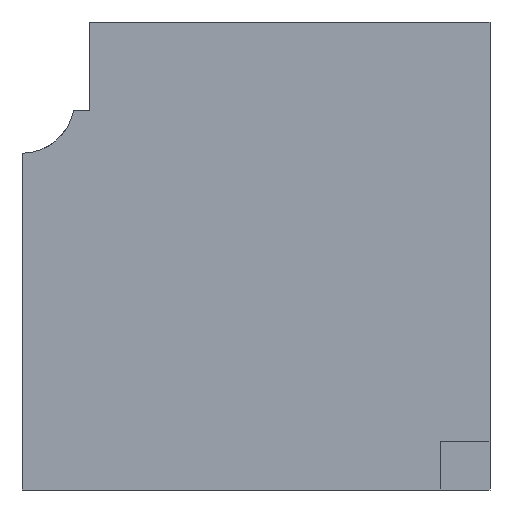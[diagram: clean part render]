
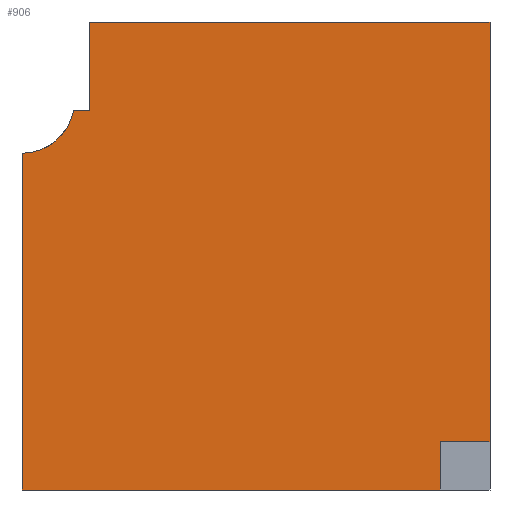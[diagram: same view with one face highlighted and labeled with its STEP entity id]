
A CAD part, front view. The second image highlights one B-rep face of the part: STEP entity #906.
In plain terms, the highlighted planar face has unit normal (0, -1, 0).
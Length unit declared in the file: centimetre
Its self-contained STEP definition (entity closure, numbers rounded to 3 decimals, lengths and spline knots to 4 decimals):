
#17 = DIRECTION ( 'NONE',  ( -1., 0., 0. ) ) ;
#20 = LINE ( 'NONE', #559, #43 ) ;
#43 = VECTOR ( 'NONE', #797, 100. ) ;
#47 = DIRECTION ( 'NONE',  ( 1., 0., 0. ) ) ;
#54 = ORIENTED_EDGE ( 'NONE', *, *, #776, .F. ) ;
#63 = AXIS2_PLACEMENT_3D ( 'NONE', #966, #281, #801 ) ;
#82 = VECTOR ( 'NONE', #47, 100. ) ;
#94 = VERTEX_POINT ( 'NONE', #123 ) ;
#96 = FACE_OUTER_BOUND ( 'NONE', #480, .T. ) ;
#123 = CARTESIAN_POINT ( 'NONE',  ( 145.1596, 0., 811.8072 ) ) ;
#126 = DIRECTION ( 'NONE',  ( 0., 0., 1. ) ) ;
#133 = CARTESIAN_POINT ( 'NONE',  ( 0., 0., 811.8072 ) ) ;
#153 = EDGE_CURVE ( 'NONE', #509, #575, #817, .T. ) ;
#163 = EDGE_CURVE ( 'NONE', #94, #742, #297, .T. ) ;
#166 = CARTESIAN_POINT ( 'NONE',  ( 1000., 0., 103.512 ) ) ;
#232 = LINE ( 'NONE', #133, #82 ) ;
#252 = EDGE_CURVE ( 'NONE', #760, #508, #270, .T. ) ;
#264 = VERTEX_POINT ( 'NONE', #278 ) ;
#270 = LINE ( 'NONE', #1053, #1006 ) ;
#278 = CARTESIAN_POINT ( 'NONE',  ( 893.4928, 0., 0. ) ) ;
#281 = DIRECTION ( 'NONE',  ( 0., 1., 0. ) ) ;
#291 = VECTOR ( 'NONE', #126, 100. ) ;
#297 = LINE ( 'NONE', #892, #291 ) ;
#324 = VECTOR ( 'NONE', #836, 100. ) ;
#384 = CARTESIAN_POINT ( 'NONE',  ( 110.3275, 0., 811.8072 ) ) ;
#400 = ORIENTED_EDGE ( 'NONE', *, *, #994, .F. ) ;
#407 = EDGE_CURVE ( 'NONE', #508, #264, #813, .T. ) ;
#435 = VECTOR ( 'NONE', #1114, 100. ) ;
#436 = CARTESIAN_POINT ( 'NONE',  ( 0., 0., 719.5913 ) ) ;
#449 = ORIENTED_EDGE ( 'NONE', *, *, #153, .T. ) ;
#480 = EDGE_LOOP ( 'NONE', ( #961, #868, #400, #54, #449, #487, #1043, #782, #519 ) ) ;
#487 = ORIENTED_EDGE ( 'NONE', *, *, #1102, .T. ) ;
#495 = CARTESIAN_POINT ( 'NONE',  ( 0., 0., 0. ) ) ;
#508 = VERTEX_POINT ( 'NONE', #847 ) ;
#509 = VERTEX_POINT ( 'NONE', #436 ) ;
#519 = ORIENTED_EDGE ( 'NONE', *, *, #819, .F. ) ;
#523 = CARTESIAN_POINT ( 'NONE',  ( 1000., 0., 1000. ) ) ;
#559 = CARTESIAN_POINT ( 'NONE',  ( 0., 0., 1000. ) ) ;
#575 = VERTEX_POINT ( 'NONE', #779 ) ;
#629 = DIRECTION ( 'NONE',  ( 0., 0., -1. ) ) ;
#680 = CARTESIAN_POINT ( 'NONE',  ( 145.1596, 0., 1000. ) ) ;
#714 = CARTESIAN_POINT ( 'NONE',  ( 1000., 0., 1000. ) ) ;
#742 = VERTEX_POINT ( 'NONE', #680 ) ;
#760 = VERTEX_POINT ( 'NONE', #166 ) ;
#775 = LINE ( 'NONE', #523, #435 ) ;
#776 = EDGE_CURVE ( 'NONE', #509, #848, #880, .T. ) ;
#779 = CARTESIAN_POINT ( 'NONE',  ( 0., 0., 0. ) ) ;
#782 = ORIENTED_EDGE ( 'NONE', *, *, #252, .F. ) ;
#797 = DIRECTION ( 'NONE',  ( 1., 0., 0. ) ) ;
#801 = DIRECTION ( 'NONE',  ( 0., 0., 1. ) ) ;
#813 = LINE ( 'NONE', #1063, #956 ) ;
#817 = LINE ( 'NONE', #1067, #823 ) ;
#819 = EDGE_CURVE ( 'NONE', #855, #760, #775, .T. ) ;
#823 = VECTOR ( 'NONE', #907, 100. ) ;
#836 = DIRECTION ( 'NONE',  ( 1., 0., 0. ) ) ;
#846 = CARTESIAN_POINT ( 'NONE',  ( 0., 0., 831.6975 ) ) ;
#847 = CARTESIAN_POINT ( 'NONE',  ( 893.4928, 0., 103.512 ) ) ;
#848 = VERTEX_POINT ( 'NONE', #384 ) ;
#855 = VERTEX_POINT ( 'NONE', #714 ) ;
#868 = ORIENTED_EDGE ( 'NONE', *, *, #163, .F. ) ;
#880 = CIRCLE ( 'NONE', #899, 112.1062 ) ;
#892 = CARTESIAN_POINT ( 'NONE',  ( 145.1596, 0., 811.8072 ) ) ;
#899 = AXIS2_PLACEMENT_3D ( 'NONE', #846, #1097, #1103 ) ;
#906 = ADVANCED_FACE ( 'NONE', ( #96 ), #985, .F. ) ;
#907 = DIRECTION ( 'NONE',  ( 0., 0., -1. ) ) ;
#927 = LINE ( 'NONE', #495, #324 ) ;
#935 = EDGE_CURVE ( 'NONE', #742, #855, #20, .T. ) ;
#956 = VECTOR ( 'NONE', #629, 100. ) ;
#961 = ORIENTED_EDGE ( 'NONE', *, *, #935, .F. ) ;
#966 = CARTESIAN_POINT ( 'NONE',  ( 0., 0., 1000. ) ) ;
#985 = PLANE ( 'NONE',  #63 ) ;
#994 = EDGE_CURVE ( 'NONE', #848, #94, #232, .T. ) ;
#1006 = VECTOR ( 'NONE', #17, 100. ) ;
#1043 = ORIENTED_EDGE ( 'NONE', *, *, #407, .F. ) ;
#1053 = CARTESIAN_POINT ( 'NONE',  ( 893.4928, 0., 103.512 ) ) ;
#1063 = CARTESIAN_POINT ( 'NONE',  ( 893.4928, 0., 103.512 ) ) ;
#1067 = CARTESIAN_POINT ( 'NONE',  ( 0., 0., 1000. ) ) ;
#1097 = DIRECTION ( 'NONE',  ( 0., -1., 0. ) ) ;
#1102 = EDGE_CURVE ( 'NONE', #575, #264, #927, .T. ) ;
#1103 = DIRECTION ( 'NONE',  ( 0., 0., -1. ) ) ;
#1114 = DIRECTION ( 'NONE',  ( 0., 0., -1. ) ) ;
